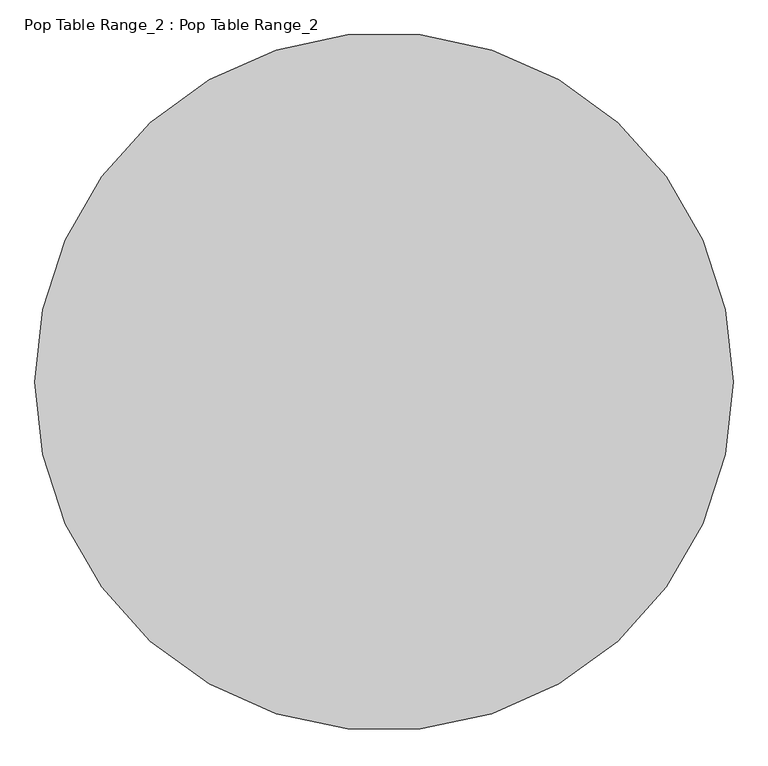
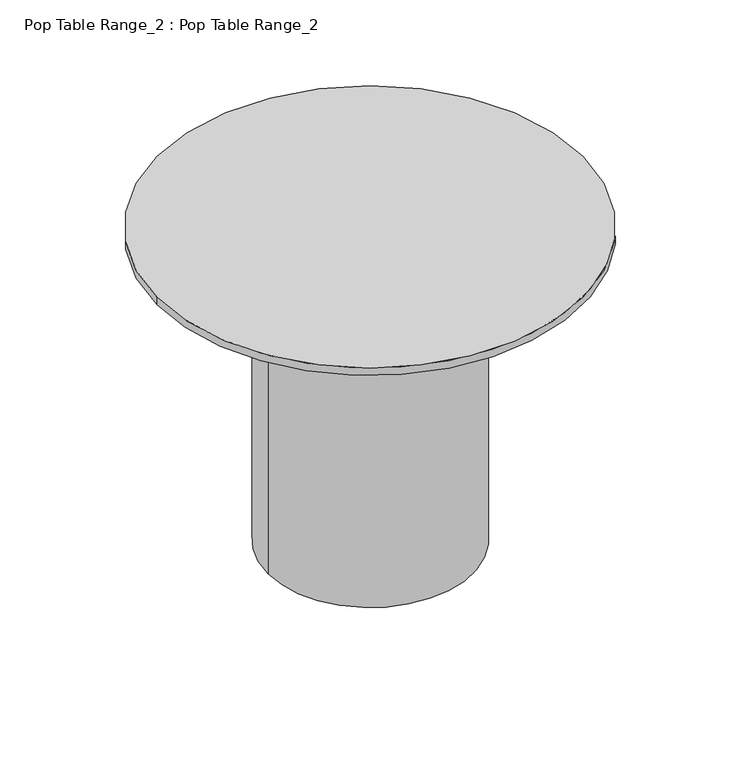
"""IFC4 building model written with IfcOpenShell, lengths in millimetres: proxy geometry, Pop Table Range_2 : Pop Table Range_2."""

from ifc_helpers import new_model, si_unit, point, frame, frame_2d, origin, origin_with_axes, origin_2d, place, context, project, spatial, circle_curve, trimmed, segment, composite_curve, outline, extrude, source, transform, mapped, element, save


def pop_table_range_2_pop_table_range_2_af476a1f(model_context):
    return source(origin(), model_context, "Body", "SweptSolid", [
        extrude(outline(composite_curve([segment(trimmed(circle_curve(origin_2d(), 325.0), [point((-325.0, 0.0))], [point((325.0, 0.0))], False, "CARTESIAN"), True, "CONTINUOUS"), segment(trimmed(circle_curve(origin_2d(), 325.0), [point((325.0, 0.0))], [point((-325.0, 0.0))], False, "CARTESIAN"), True, "CONTINUOUS")], self_intersect=False), holes=[composite_curve([segment(trimmed(circle_curve(origin_2d(), 300.0), [point((-300.0, 0.0))], [point((300.0, 0.0))], True, "CARTESIAN"), True, "CONTINUOUS"), segment(trimmed(circle_curve(origin_2d(), 300.0), [point((300.0, 0.0))], [point((-300.0, 0.0))], True, "CARTESIAN"), True, "CONTINUOUS")], self_intersect=False)]), origin_with_axes(), (0.0, 0.0, 1.0), 1025.0),
        extrude(outline(composite_curve([segment(trimmed(circle_curve(frame_2d((-2.5, -2.5)), 675.0), [point((-677.5, -2.5))], [point((672.5, -2.5))], False, "CARTESIAN"), True, "CONTINUOUS"), segment(trimmed(circle_curve(frame_2d((-2.5, -2.5)), 675.0), [point((672.5, -2.5))], [point((-677.5, -2.5))], False, "CARTESIAN"), True, "CONTINUOUS")], self_intersect=False)), frame((0.0, 0.0, 1025.0), z_axis=(0.0, 0.0, 1.0), x_axis=(1.0, 0.0, 0.0)), (0.0, 0.0, 1.0), 25.0),
    ])


if __name__ == "__main__":
    model = new_model("IFC4")
    model_context = context("Model", 3, world=origin())
    ifc_project = project(units=[si_unit("LENGTHUNIT", "METRE", prefix="MILLI")], contexts=[model_context])
    site = spatial("IfcSite", under=ifc_project)
    building = spatial("IfcBuilding", under=site)
    placement = place(None, origin())
    pop_table_range_2_pop_table_range_2_shape = pop_table_range_2_pop_table_range_2_af476a1f(model_context)
    element("IfcBuildingElementProxy", 1, Name="Pop Table Range_2 : Pop Table Range_2", ObjectType="Pop Table Range_2 : Pop Table Range_2", at=placement, inside=building, context=model_context, shape_type="MappedRepresentation", body=[
        mapped(pop_table_range_2_pop_table_range_2_shape, transform((0.0, 0.0, 0.0), x_axis=(1.0, 0.0, 0.0), y_axis=(0.0, 1.0, 0.0), z_axis=(0.0, 0.0, 1.0))),
    ])
    save(model, "model.ifc")
